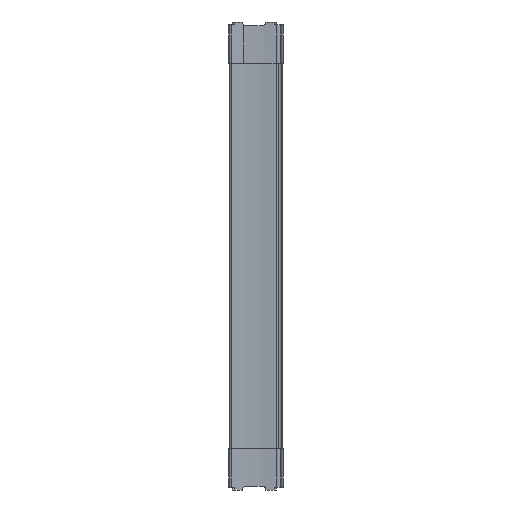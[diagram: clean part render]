
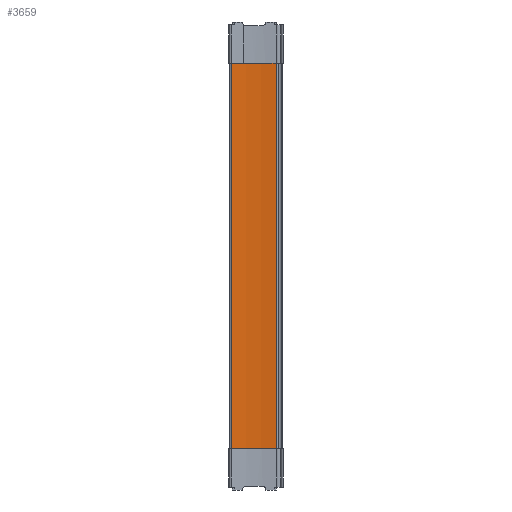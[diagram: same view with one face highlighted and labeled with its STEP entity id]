
A CAD part, left-side view. The second image highlights one B-rep face of the part: STEP entity #3659.
In plain terms, the highlighted cylindrical face has radius 250 mm (diameter 500 mm), a partial arc.
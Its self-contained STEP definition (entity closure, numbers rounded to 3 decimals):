
#119 = LINE ( 'NONE', #274, #120 ) ;
#120 = VECTOR ( 'NONE', #275, 1000. ) ;
#217 = LINE ( 'NONE', #438, #218 ) ;
#218 = VECTOR ( 'NONE', #439, 1000. ) ;
#229 = CIRCLE ( 'NONE', #4253, 250. ) ;
#274 = CARTESIAN_POINT ( 'NONE',  ( -8.643, 8.331, 243.5 ) ) ;
#275 = DIRECTION ( 'NONE',  ( 0., 0., -1. ) ) ;
#438 = CARTESIAN_POINT ( 'NONE',  ( -5.747, 63.571, 243.5 ) ) ;
#439 = DIRECTION ( 'NONE',  ( 0., 0., -1. ) ) ;
#450 = CARTESIAN_POINT ( 'NONE',  ( -255.319, 48.963, 237.5 ) ) ;
#460 = DIRECTION ( 'NONE',  ( 0., 0., -1. ) ) ;
#461 = DIRECTION ( 'NONE',  ( 1., 0., 0. ) ) ;
#614 = EDGE_LOOP ( 'NONE', ( #1080, #1079, #1078, #1077 ) ) ;
#1077 = ORIENTED_EDGE ( 'NONE', *, *, #4356, .T. ) ;
#1078 = ORIENTED_EDGE ( 'NONE', *, *, #4364, .F. ) ;
#1079 = ORIENTED_EDGE ( 'NONE', *, *, #4294, .F. ) ;
#1080 = ORIENTED_EDGE ( 'NONE', *, *, #3794, .F. ) ;
#1286 = VERTEX_POINT ( 'NONE', #1535 ) ;
#1294 = VERTEX_POINT ( 'NONE', #1543 ) ;
#1338 = VERTEX_POINT ( 'NONE', #1587 ) ;
#1341 = VERTEX_POINT ( 'NONE', #1590 ) ;
#1535 = CARTESIAN_POINT ( 'NONE',  ( -5.747, 63.571, -237.5 ) ) ;
#1543 = CARTESIAN_POINT ( 'NONE',  ( -5.747, 63.571, 237.5 ) ) ;
#1587 = CARTESIAN_POINT ( 'NONE',  ( -8.643, 8.331, 237.5 ) ) ;
#1590 = CARTESIAN_POINT ( 'NONE',  ( -8.643, 8.331, -237.5 ) ) ;
#1947 = DIRECTION ( 'NONE',  ( -1., 0., 0. ) ) ;
#1948 = DIRECTION ( 'NONE',  ( 0., 0., -1. ) ) ;
#1949 = CARTESIAN_POINT ( 'NONE',  ( -255.319, 48.963, 243.5 ) ) ;
#2348 = CARTESIAN_POINT ( 'NONE',  ( -255.319, 48.963, -237.5 ) ) ;
#2350 = DIRECTION ( 'NONE',  ( 0., 0., 1. ) ) ;
#2351 = DIRECTION ( 'NONE',  ( -1., 0., 0. ) ) ;
#2838 = CIRCLE ( 'NONE', #4145, 250. ) ;
#3037 = CYLINDRICAL_SURFACE ( 'NONE', #4054, 250. ) ;
#3040 = FACE_OUTER_BOUND ( 'NONE', #614, .T. ) ;
#3659 = ADVANCED_FACE ( 'NONE', ( #3040 ), #3037, .F. ) ;
#3794 = EDGE_CURVE ( 'NONE', #1341, #1286, #2838, .T. ) ;
#4054 = AXIS2_PLACEMENT_3D ( 'NONE', #1949, #1948, #1947 ) ;
#4145 = AXIS2_PLACEMENT_3D ( 'NONE', #2348, #2350, #2351 ) ;
#4253 = AXIS2_PLACEMENT_3D ( 'NONE', #450, #460, #461 ) ;
#4294 = EDGE_CURVE ( 'NONE', #1338, #1341, #119, .T. ) ;
#4356 = EDGE_CURVE ( 'NONE', #1294, #1286, #217, .T. ) ;
#4364 = EDGE_CURVE ( 'NONE', #1294, #1338, #229, .T. ) ;
